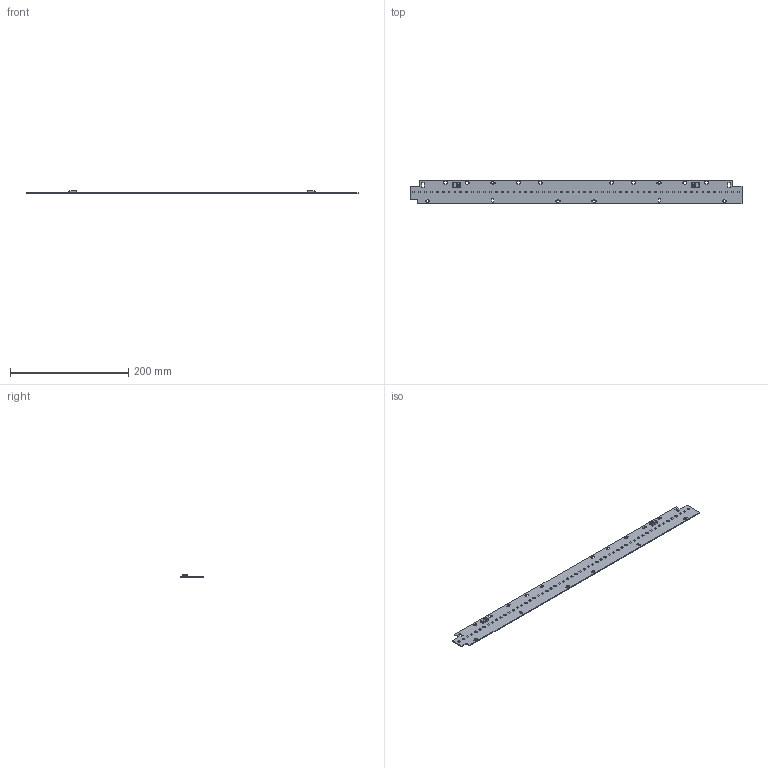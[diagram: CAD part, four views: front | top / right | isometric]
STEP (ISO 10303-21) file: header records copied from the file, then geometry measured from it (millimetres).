
FILE_DESCRIPTION(/* description */ (''),/* implementation_level */ '2;1');
FILE_NAME(/* name */ 'C:\Data\Vault\LE-TPD\9290 029 32200_Fortimo LED Line 2ft HF 1R HV5\Fortimo LED Line 2ft HF 1R HV5 2021-07-19.stp',/* time_stamp */ '2021-07-19T23:09:19+02:00',/* author */ ('plr05507'),/* organization */ (''),/* preprocessor_version */ 'ST-DEVELOPER v16.5',/* originating_system */ 'Autodesk Inventor 2017',/* authorisation */ '');
FILE_SCHEMA (('AUTOMOTIVE_DESIGN { 1 0 10303 214 3 1 1 }'));
Products named in the file (1): 4422-955-40100
Bounding box: 560.7 x 40 x 6.1 mm (x, y, z)
Volume: 35421.3 mm3; surface area: 47834.5 mm2
Topology: 1 solids, 1 shells, 2709 faces, 7137 edges, 4606 vertices
Faces by surface type: plane 1726, cylinder 811, cone 168, sphere 4
Full cylindrical faces by diameter (mm): 2.25 x4
Entity records: 86184 total; most frequent: CARTESIAN_POINT 14627, DIRECTION 14339, ORIENTED_EDGE 14258, EDGE_CURVE 7129, LINE 5287, VECTOR 5287, VERTEX_POINT 4602, AXIS2_PLACEMENT_3D 4526
